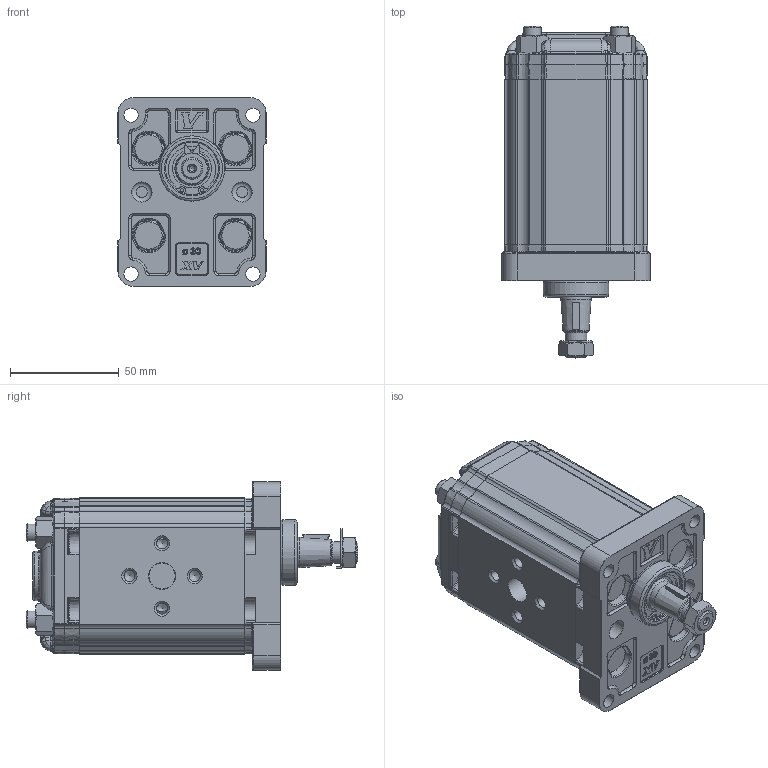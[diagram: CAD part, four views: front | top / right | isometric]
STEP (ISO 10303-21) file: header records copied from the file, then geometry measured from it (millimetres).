
FILE_DESCRIPTION(/* description */ ('Unknown'),/* implementation_level */ '2;1');
FILE_NAME(/* name */ 'X1R3607GIIF',/* time_stamp */ '2026-05-26T18:58:05+02:00',/* author */ ('Unknown'),/* organization */ ('Unknown'),/* preprocessor_version */ 'ST-DEVELOPER v16.7',/* originating_system */ 'Solid Edge',/* authorisation */ 'Unknown');
FILE_SCHEMA (('AUTOMOTIVE_DESIGN {1 0 10303 214 3 1 1}'));
Products named in the file (5): X1R3607GIIF; X1R07; 1G; X1IIH76; XR113-F
Assembly tree (4 placements, depth 2):
  X1R3607GIIF
    X1R07
    1G
    X1IIH76
    XR113-F
Bounding box: 68 x 152.49 x 86.7 mm (x, y, z)
Volume: 461457.4 mm3; surface area: 85391.1 mm2
Topology: 4 solids, 5 shells, 2279 faces, 5504 edges, 3297 vertices
Faces by surface type: cylinder 712, plane 558, bspline 476, torus 264, cone 218, sphere 51
Full cylindrical faces by diameter (mm): 1.678 x2, 2.5 x1, 3 x2, 5 x8, 6.5 x4, 8 x12, 8.5 x6, 9 x2, 9.3 x2, 10 x2, 10.25 x1, 10.5 x2, 12 x6, 13.955 x1, 14 x2, 14.923 x1, 17.115 x1, 17.833 x1, 20 x1, 22 x1, 24 x2, 24.2 x1, 25.5 x1, 30 x1
Entity records: 110079 total; most frequent: CARTESIAN_POINT 44019, ORIENTED_EDGE 10450, DIRECTION 10149, EDGE_CURVE 5225, AXIS2_PLACEMENT_3D 4139, VERTEX_POINT 3208, FACE_BOUND 2609, EDGE_LOOP 2599
